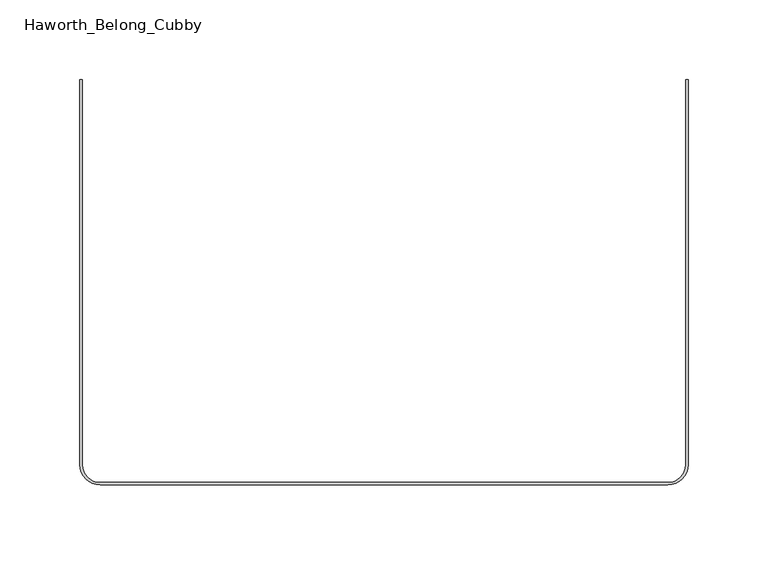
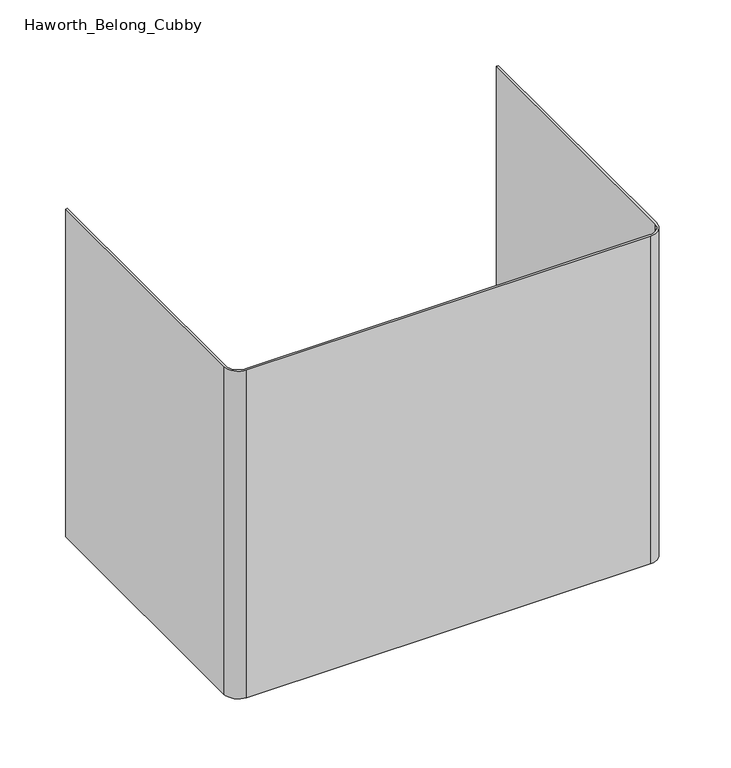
"""IFC4 building model written with IfcOpenShell, lengths in millimetres: furniture geometry, Haworth_Belong_Cubby : 9h - No Slots."""

from ifc_helpers import new_model, si_unit, point, frame, frame_2d, origin, place, context, project, spatial, polyline, circle_curve, trimmed, segment, composite_curve, outline, extrude, source, transform, mapped, element, save


def haworth_belong_cubby_e2a51a68(model_context):
    return source(origin(), model_context, "Body", "SweptSolid", [
        extrude(outline(composite_curve([segment(polyline([(-190.5, 253.20625), (-188.9125, 253.20625), (-188.9125, 11.90625)]), True, "CONTINUOUS"), segment(trimmed(circle_curve(frame_2d((-177.8, 11.90625)), 11.1125), [point((-188.9125, 11.90625))], [point((-177.8, 0.79375))], True, "CARTESIAN"), True, "CONTINUOUS"), segment(polyline([(-177.8, 0.79375), (177.8, 0.79375)]), True, "CONTINUOUS"), segment(trimmed(circle_curve(frame_2d((177.8, 11.90625)), 11.1125), [point((177.8, 0.79375))], [point((188.9125, 11.90625))], True, "CARTESIAN"), True, "CONTINUOUS"), segment(polyline([(188.9125, 11.90625), (188.9125, 253.20625), (190.5, 253.20625), (190.5, 11.90625)]), True, "CONTINUOUS"), segment(trimmed(circle_curve(frame_2d((177.8, 11.90625)), 12.7), [point((190.5, 11.90625))], [point((177.8, -0.79375))], False, "CARTESIAN"), True, "CONTINUOUS"), segment(polyline([(177.8, -0.79375), (-177.8, -0.79375)]), True, "CONTINUOUS"), segment(trimmed(circle_curve(frame_2d((-177.8, 11.90625)), 12.7), [point((-177.8, -0.79375))], [point((-190.5, 11.90625))], False, "CARTESIAN"), True, "CONTINUOUS"), segment(polyline([(-190.5, 11.90625), (-190.5, 253.20625)]), True, "CONTINUOUS")], self_intersect=False)), frame((0.0, 0.0, 609.6), z_axis=(0.0, 0.0, 1.0), x_axis=(1.0, 0.0, 0.0)), (0.0, 0.0, 1.0), 304.8),
    ])


if __name__ == "__main__":
    model = new_model("IFC4")
    model_context = context("Model", 3, world=origin())
    ifc_project = project(units=[si_unit("LENGTHUNIT", "METRE", prefix="MILLI")], contexts=[model_context])
    site = spatial("IfcSite", under=ifc_project)
    building = spatial("IfcBuilding", under=site)
    placement = place(None, origin())
    haworth_belong_cubby_shape = haworth_belong_cubby_e2a51a68(model_context)
    element("IfcFurniture", 1, ObjectType="Haworth_Belong_Cubby : 9h - No Slots", at=placement, inside=building, context=model_context, shape_type="MappedRepresentation", body=[
        mapped(haworth_belong_cubby_shape, transform((0.0, 0.0, 0.0), x_axis=(1.0, 0.0, 0.0), y_axis=(0.0, 1.0, 0.0), z_axis=(0.0, 0.0, 1.0))),
    ])
    save(model, "model.ifc")
